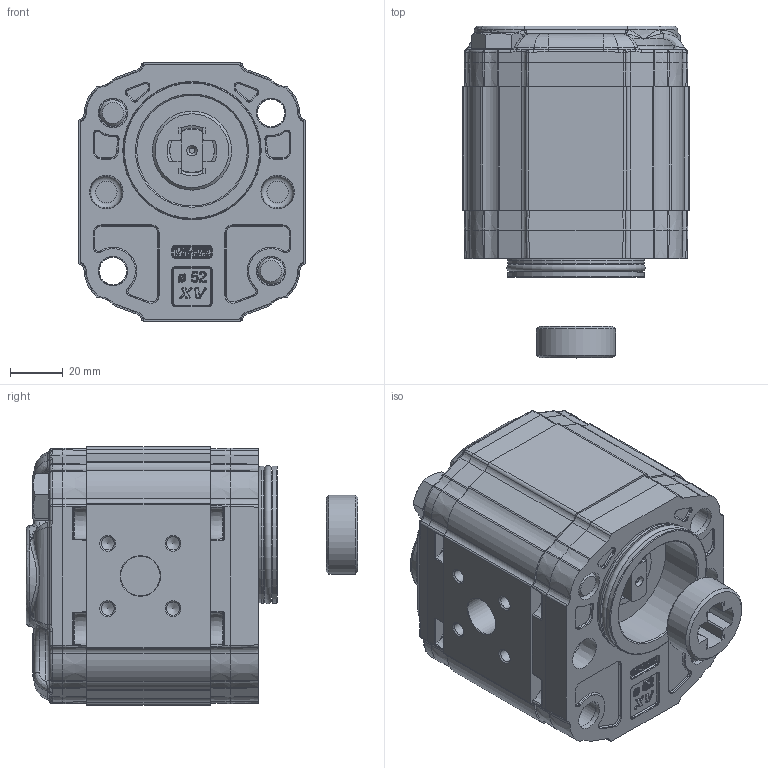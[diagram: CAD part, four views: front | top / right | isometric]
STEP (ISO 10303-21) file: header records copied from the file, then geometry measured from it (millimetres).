
FILE_DESCRIPTION(/* description */ ('Unknown'),/* implementation_level */ '2;1');
FILE_NAME(/* name */ 'X2M4119CRRF',/* time_stamp */ '2026-06-03T18:36:12+02:00',/* author */ ('Unknown'),/* organization */ ('Unknown'),/* preprocessor_version */ 'ST-DEVELOPER v16.7',/* originating_system */ 'Solid Edge',/* authorisation */ 'Unknown');
FILE_SCHEMA (('AUTOMOTIVE_DESIGN {1 0 10303 214 3 1 1}'));
Products named in the file (5): X2M4119CRRF; X2M19; 2C; X2RRH47; XM216-F
Assembly tree (4 placements, depth 2):
  X2M4119CRRF
    X2M19
    2C
    X2RRH47
    XM216-F
Bounding box: 86 x 126 x 98 mm (x, y, z)
Volume: 597349.6 mm3; surface area: 98699.3 mm2
Topology: 5 solids, 9 shells, 2492 faces, 6084 edges, 3673 vertices
Faces by surface type: cylinder 711, plane 634, bspline 612, cone 272, torus 203, sphere 60
Full cylindrical faces by diameter (mm): 2 x1, 5 x8, 10 x6, 10.5 x8, 11 x2, 15 x2, 16 x2, 16.8 x1, 17.42 x1, 23 x1, 25 x1, 30 x1, 42 x1, 47.8 x2, 52 x2
Entity records: 116295 total; most frequent: CARTESIAN_POINT 46160, ORIENTED_EDGE 11706, DIRECTION 9637, EDGE_CURVE 5853, AXIS2_PLACEMENT_3D 3768, VERTEX_POINT 3619, FACE_BOUND 2752, EDGE_LOOP 2743
